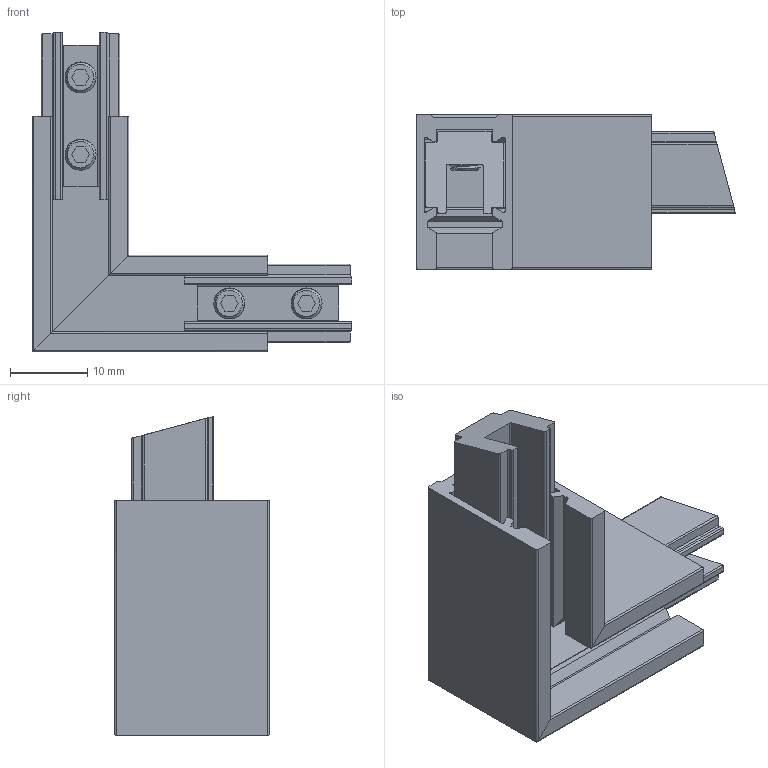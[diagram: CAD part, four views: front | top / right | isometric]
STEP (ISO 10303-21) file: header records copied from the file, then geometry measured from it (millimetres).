
FILE_DESCRIPTION((''),'2;1');
FILE_NAME('KC-0006-88_ASM','2025-08-01T15:03:25',('YF-06'),(''),'CREO PARAMETRIC BY PTC INC, 2022073','CREO PARAMETRIC BY PTC INC, 2022073','');
FILE_SCHEMA(('CONFIG_CONTROL_DESIGN','SHAPE_APPEARANCE_LAYERS_GROUPS'));
Length unit declared in the file: millimetre
Products named in the file (5): KC-0006-0077; KC-0006-0078; KC-0006-0014; M4_5; KC-0006-88_ASM
Assembly tree (8 placements, depth 2):
  KC-0006-88_ASM
    KC-0006-0077
    KC-0006-0078
    KC-0006-0014  x2
    M4_5  x4
Bounding box: 41.34 x 20 x 41.34 mm (x, y, z)
Volume: 6590.6 mm3; surface area: 8918.1 mm2
Topology: 8 solids, 12 shells, 308 faces, 836 edges, 548 vertices
Faces by surface type: plane 132, cylinder 124, cone 28, bspline 24
Entity records: 6749 total; most frequent: CARTESIAN_POINT 2140, ORIENTED_EDGE 924, DIRECTION 779, EDGE_CURVE 466, VECTOR 311, LINE 311, VERTEX_POINT 307, AXIS2_PLACEMENT_3D 234
